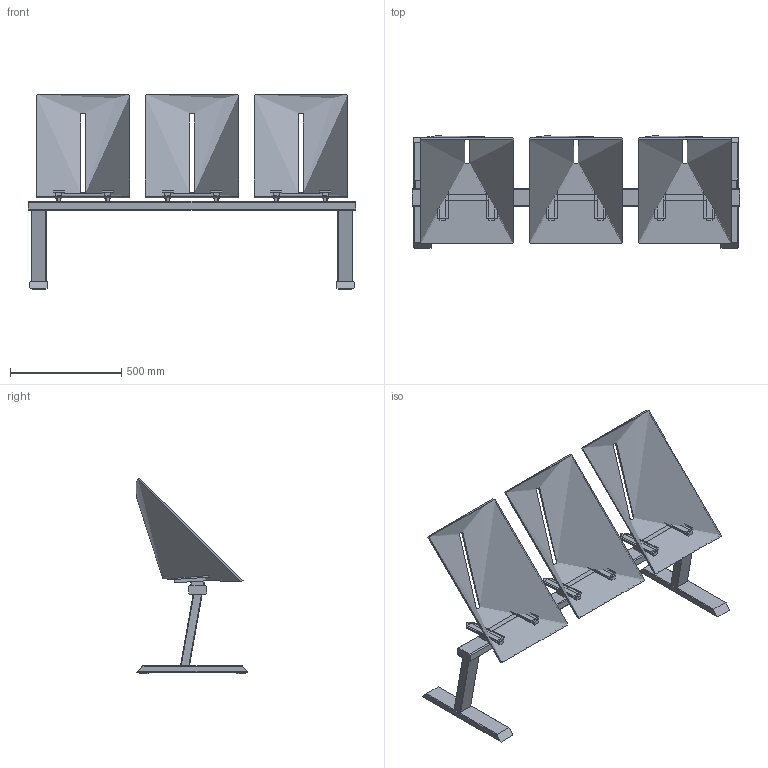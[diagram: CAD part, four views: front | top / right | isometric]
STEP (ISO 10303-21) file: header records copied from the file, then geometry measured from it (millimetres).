
FILE_DESCRIPTION(/* description */ (''),/* implementation_level */ '2;1');
FILE_NAME(/* name */ 'TW6769~1',/* time_stamp */ '2016-06-28T23:38:18+02:00',/* author */ (''),/* organization */ (''),/* preprocessor_version */ 'ST-DEVELOPER v15',/* originating_system */ '',/* authorisation */ '');
FILE_SCHEMA (('CONFIG_CONTROL_DESIGN'));
Length unit declared in the file: millimetre
Products named in the file (1): Document
Bounding box: 1476 x 504.17 x 878.87 mm (x, y, z)
Volume: 11764774.8 mm3; surface area: 3177653.2 mm2
Topology: 9 solids, 41 shells, 326 faces, 861 edges, 568 vertices
Faces by surface type: plane 199, bspline 127
Entity records: 18063 total; most frequent: CARTESIAN_POINT 12772, ORIENTED_EDGE 1430, EDGE_CURVE 858, B_SPLINE_CURVE_WITH_KNOTS 660, VERTEX_POINT 564, EDGE_LOOP 332, ADVANCED_FACE 326, FACE_OUTER_BOUND 326
